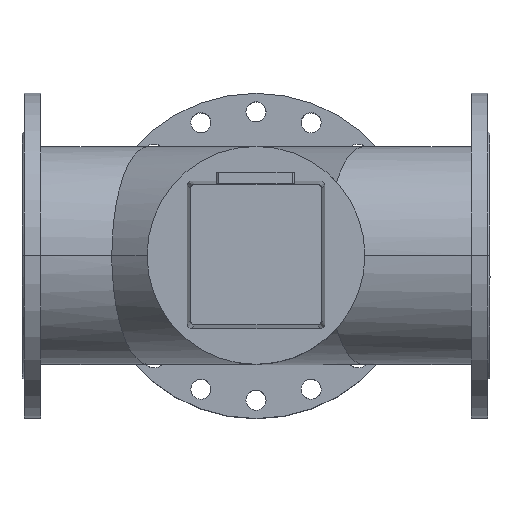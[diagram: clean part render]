
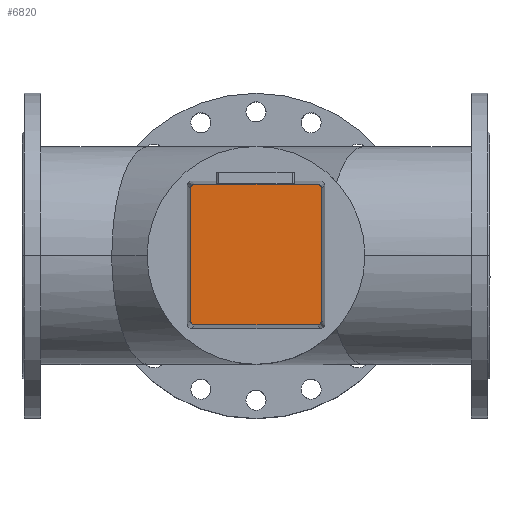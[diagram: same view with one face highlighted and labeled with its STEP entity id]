
A CAD part, top view. The second image highlights one B-rep face of the part: STEP entity #6820.
In plain terms, the highlighted planar face has unit normal (0, 0, 1).
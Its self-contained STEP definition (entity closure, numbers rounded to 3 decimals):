
#455=LINE('',#11693,#815);
#456=LINE('',#11697,#816);
#457=LINE('',#11701,#817);
#458=LINE('',#11705,#818);
#815=VECTOR('',#9644,304.8);
#816=VECTOR('',#9647,304.8);
#817=VECTOR('',#9650,304.8);
#818=VECTOR('',#9653,304.8);
#1621=FACE_OUTER_BOUND('',#2138,.T.);
#2138=EDGE_LOOP('',(#5747,#5748,#5749,#5750,#5751,#5752,#5753,#5754));
#2681=CIRCLE('',#7667,6.);
#2682=CIRCLE('',#7668,6.);
#2683=CIRCLE('',#7669,6.);
#2684=CIRCLE('',#7670,6.);
#3263=VERTEX_POINT('',#11691);
#3264=VERTEX_POINT('',#11692);
#3265=VERTEX_POINT('',#11694);
#3266=VERTEX_POINT('',#11696);
#3267=VERTEX_POINT('',#11698);
#3268=VERTEX_POINT('',#11700);
#3269=VERTEX_POINT('',#11702);
#3270=VERTEX_POINT('',#11704);
#4111=EDGE_CURVE('',#3263,#3264,#455,.T.);
#4112=EDGE_CURVE('',#3264,#3265,#2681,.T.);
#4113=EDGE_CURVE('',#3265,#3266,#456,.T.);
#4114=EDGE_CURVE('',#3266,#3267,#2682,.T.);
#4115=EDGE_CURVE('',#3267,#3268,#457,.T.);
#4116=EDGE_CURVE('',#3268,#3269,#2683,.T.);
#4117=EDGE_CURVE('',#3269,#3270,#458,.T.);
#4118=EDGE_CURVE('',#3270,#3263,#2684,.T.);
#5747=ORIENTED_EDGE('',*,*,#4111,.T.);
#5748=ORIENTED_EDGE('',*,*,#4112,.T.);
#5749=ORIENTED_EDGE('',*,*,#4113,.T.);
#5750=ORIENTED_EDGE('',*,*,#4114,.T.);
#5751=ORIENTED_EDGE('',*,*,#4115,.T.);
#5752=ORIENTED_EDGE('',*,*,#4116,.T.);
#5753=ORIENTED_EDGE('',*,*,#4117,.T.);
#5754=ORIENTED_EDGE('',*,*,#4118,.T.);
#6168=PLANE('',#7666);
#6820=ADVANCED_FACE('',(#1621),#6168,.T.);
#7666=AXIS2_PLACEMENT_3D('',#11690,#9642,#9643);
#7667=AXIS2_PLACEMENT_3D('',#11695,#9645,#9646);
#7668=AXIS2_PLACEMENT_3D('',#11699,#9648,#9649);
#7669=AXIS2_PLACEMENT_3D('',#11703,#9651,#9652);
#7670=AXIS2_PLACEMENT_3D('',#11706,#9654,#9655);
#9642=DIRECTION('center_axis',(0.,0.,1.));
#9643=DIRECTION('ref_axis',(0.,-1.,0.));
#9644=DIRECTION('',(0.,-1.,0.));
#9645=DIRECTION('center_axis',(0.,0.,1.));
#9646=DIRECTION('ref_axis',(1.,0.,0.));
#9647=DIRECTION('',(1.,0.,0.));
#9648=DIRECTION('center_axis',(0.,0.,1.));
#9649=DIRECTION('ref_axis',(1.,0.,0.));
#9650=DIRECTION('',(0.,1.,0.));
#9651=DIRECTION('center_axis',(0.,0.,1.));
#9652=DIRECTION('ref_axis',(1.,0.,0.));
#9653=DIRECTION('',(-1.,0.,0.));
#9654=DIRECTION('center_axis',(0.,0.,1.));
#9655=DIRECTION('ref_axis',(1.,0.,0.));
#11690=CARTESIAN_POINT('Origin',(0.,0.,
683.));
#11691=CARTESIAN_POINT('',(-105.,91.5,683.));
#11692=CARTESIAN_POINT('',(-105.,-91.5,683.));
#11693=CARTESIAN_POINT('',(-105.,-91.5,683.));
#11694=CARTESIAN_POINT('',(-99.,-97.5,683.));
#11695=CARTESIAN_POINT('Origin',(-99.,-91.5,683.));
#11696=CARTESIAN_POINT('',(99.,-97.5,683.));
#11697=CARTESIAN_POINT('',(99.,-97.5,683.));
#11698=CARTESIAN_POINT('',(105.,-91.5,683.));
#11699=CARTESIAN_POINT('Origin',(99.,-91.5,683.));
#11700=CARTESIAN_POINT('',(105.,91.5,683.));
#11701=CARTESIAN_POINT('',(105.,91.5,683.));
#11702=CARTESIAN_POINT('',(99.,97.5,683.));
#11703=CARTESIAN_POINT('Origin',(99.,91.5,683.));
#11704=CARTESIAN_POINT('',(-99.,97.5,683.));
#11705=CARTESIAN_POINT('',(-99.,97.5,683.));
#11706=CARTESIAN_POINT('Origin',(-99.,91.5,683.));
